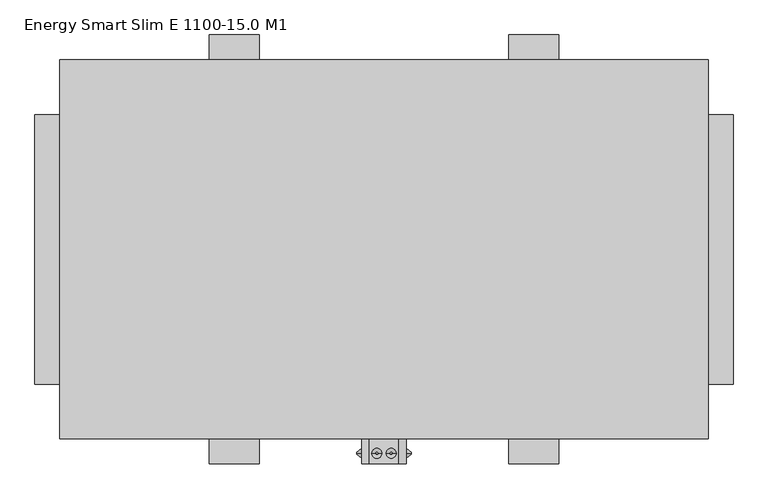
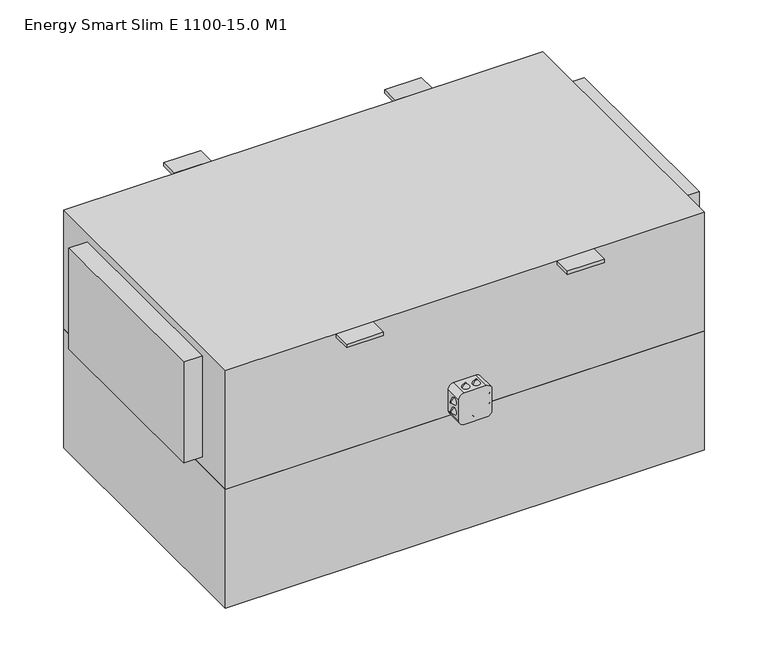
"""IFC4 building model written with IfcOpenShell, lengths in millimetres: proxy geometry, ADSK_КПВУ_ENERGY SMART SLIM E_прямоугольная : Energy Smart Slim E 1100-15.0 M1."""

from ifc_helpers import new_model, si_unit, point, frame, frame_2d, origin, place, context, project, spatial, polyline, circle_curve, trimmed, segment, composite_curve, outline, extrude, faceted_brep, source, transform, mapped, element, save
from ifc_brep_helpers import plane_surface, revolved_surface, advanced_brep


def energy_smart_slim_e_1100_15_0_m1_a4313444(model_context):
    return source(origin(), model_context, "Body", "SolidModel", [
        advanced_brep(
        [(211.0, -408.9311792, -142.7092609), (211.0, -408.9311792, -138.7092609), (221.0, -408.9311792, -150.7092609), (221.0, -408.9311792, -130.7092609)],
        [
            (0, 1, circle_curve(frame((211.0, -408.9311792, -140.7092609), z_axis=(-1.0, 0.0, 0.0), x_axis=(0.0, 0.0, -1.0)), 2.0)),
            (1, 0, circle_curve(frame((211.0, -408.9311792, -140.7092609), z_axis=(-1.0, 0.0, 0.0), x_axis=(0.0, 0.0, 1.0)), 2.0)),
            (2, 3, circle_curve(frame((221.0, -408.9311792, -140.7092609), z_axis=(1.0, 0.0, 0.0), x_axis=(0.0, 0.0, 1.0)), 10.0)),
            (3, 2, circle_curve(frame((221.0, -408.9311792, -140.7092609), z_axis=(1.0, 0.0, 0.0), x_axis=(0.0, 0.0, -1.0)), 10.0)),
            (2, 0),
            (1, 3),
        ],
        [
            plane_surface(frame((211.0, -408.9311792, -140.7092609), z_axis=(-1.0, 0.0, 0.0), x_axis=(0.0, -1.0, 0.0))),
            plane_surface(frame((221.0, -408.9311792, -140.7092609), z_axis=(1.0, 0.0, 0.0), x_axis=(0.0, -1.0, 0.0))),
            revolved_surface(polyline([(211.0, -408.9311792, -138.7092609), (221.0, -408.9311792, -130.7092609)]), (208.5, -408.9311792, -140.7092609), (1.0, 0.0, 0.0)),
            revolved_surface(polyline([(211.0, -408.9311792, -142.7092609), (221.0, -408.9311792, -150.7092609)]), (208.5, -408.9311792, -140.7092609), (1.0, 0.0, 0.0)),
        ],
        [
            (0, [[1, 2]]),
            (1, [[3, 4]]),
            (2, [[-3, 5, -2, 6]]),
            (3, [[-4, -6, -1, -5]]),
        ],
    ),
        advanced_brep(
        [(211.0, -408.9311792, -110.0531164), (211.0, -408.9311792, -114.0531164), (221.0, -408.9311792, -102.0531164), (221.0, -408.9311792, -122.0531164)],
        [
            (0, 1, circle_curve(frame((211.0, -408.9311792, -112.0531164), z_axis=(-1.0, 0.0, 0.0), x_axis=(0.0, 0.0, 1.0)), 2.0)),
            (1, 0, circle_curve(frame((211.0, -408.9311792, -112.0531164), z_axis=(-1.0, 0.0, 0.0), x_axis=(0.0, 0.0, -1.0)), 2.0)),
            (2, 3, circle_curve(frame((221.0, -408.9311792, -112.0531164), z_axis=(1.0, 0.0, 0.0), x_axis=(0.0, 0.0, -1.0)), 10.0)),
            (3, 2, circle_curve(frame((221.0, -408.9311792, -112.0531164), z_axis=(1.0, 0.0, 0.0), x_axis=(0.0, 0.0, 1.0)), 10.0)),
            (3, 1),
            (0, 2),
        ],
        [
            plane_surface(frame((211.0, -408.9311792, -112.0531164), z_axis=(-1.0, 0.0, 0.0), x_axis=(0.0, 1.0, 0.0))),
            plane_surface(frame((221.0, -408.9311792, -112.0531164), z_axis=(1.0, 0.0, 0.0), x_axis=(0.0, 1.0, 0.0))),
            revolved_surface(polyline([(211.0, -408.9311792, -110.0531164), (221.0, -408.9311792, -102.0531164)]), (208.5, -408.9311792, -112.0531164), (1.0, 0.0, 0.0)),
            revolved_surface(polyline([(211.0, -408.9311792, -114.0531164), (221.0, -408.9311792, -122.0531164)]), (208.5, -408.9311792, -112.0531164), (1.0, 0.0, 0.0)),
        ],
        [
            (0, [[1, 2]]),
            (1, [[3, 4]]),
            (2, [[-4, 5, -1, 6]]),
            (3, [[-3, -6, -2, -5]]),
        ],
    ),
        advanced_brep(
        [(321.0, -408.9311792, -142.7092609), (321.0, -408.9311792, -138.7092609), (311.0, -408.9311792, -150.7092609), (311.0, -408.9311792, -130.7092609)],
        [
            (0, 1, circle_curve(frame((321.0, -408.9311792, -140.7092609), z_axis=(1.0, 0.0, 0.0), x_axis=(0.0, 0.0, -1.0)), 2.0)),
            (1, 0, circle_curve(frame((321.0, -408.9311792, -140.7092609), z_axis=(1.0, 0.0, 0.0), x_axis=(0.0, 0.0, 1.0)), 2.0)),
            (2, 3, circle_curve(frame((311.0, -408.9311792, -140.7092609), z_axis=(-1.0, 0.0, 0.0), x_axis=(0.0, 0.0, 1.0)), 10.0)),
            (3, 2, circle_curve(frame((311.0, -408.9311792, -140.7092609), z_axis=(-1.0, 0.0, 0.0), x_axis=(0.0, 0.0, -1.0)), 10.0)),
            (3, 1),
            (0, 2),
        ],
        [
            plane_surface(frame((321.0, -408.9311792, -140.7092609), z_axis=(1.0, 0.0, 0.0), x_axis=(0.0, 1.0, 0.0))),
            plane_surface(frame((311.0, -408.9311792, -140.7092609), z_axis=(-1.0, 0.0, 0.0), x_axis=(0.0, 1.0, 0.0))),
            revolved_surface(polyline([(321.0, -408.9311792, -142.7092609), (311.0, -408.9311792, -150.7092609)]), (323.5, -408.9311792, -140.7092609), (-1.0, 0.0, 0.0)),
            revolved_surface(polyline([(321.0, -408.9311792, -138.7092609), (311.0, -408.9311792, -130.7092609)]), (323.5, -408.9311792, -140.7092609), (-1.0, 0.0, 0.0)),
        ],
        [
            (0, [[1, 2]]),
            (1, [[3, 4]]),
            (2, [[-4, 5, -1, 6]]),
            (3, [[-3, -6, -2, -5]]),
        ],
    ),
        advanced_brep(
        [(321.0, -408.9311792, -110.0531164), (321.0, -408.9311792, -114.0531164), (311.0, -408.9311792, -102.0531164), (311.0, -408.9311792, -122.0531164)],
        [
            (0, 1, circle_curve(frame((321.0, -408.9311792, -112.0531164), z_axis=(1.0, 0.0, 0.0), x_axis=(0.0, 0.0, 1.0)), 2.0)),
            (1, 0, circle_curve(frame((321.0, -408.9311792, -112.0531164), z_axis=(1.0, 0.0, 0.0), x_axis=(0.0, 0.0, -1.0)), 2.0)),
            (2, 3, circle_curve(frame((311.0, -408.9311792, -112.0531164), z_axis=(-1.0, 0.0, 0.0), x_axis=(0.0, 0.0, -1.0)), 10.0)),
            (3, 2, circle_curve(frame((311.0, -408.9311792, -112.0531164), z_axis=(-1.0, 0.0, 0.0), x_axis=(0.0, 0.0, 1.0)), 10.0)),
            (2, 0),
            (1, 3),
        ],
        [
            plane_surface(frame((321.0, -408.9311792, -112.0531164), z_axis=(1.0, 0.0, 0.0), x_axis=(0.0, -1.0, 0.0))),
            plane_surface(frame((311.0, -408.9311792, -112.0531164), z_axis=(-1.0, 0.0, 0.0), x_axis=(0.0, -1.0, 0.0))),
            revolved_surface(polyline([(321.0, -408.9311792, -114.0531164), (311.0, -408.9311792, -122.0531164)]), (323.5, -408.9311792, -112.0531164), (-1.0, 0.0, 0.0)),
            revolved_surface(polyline([(321.0, -408.9311792, -110.0531164), (311.0, -408.9311792, -102.0531164)]), (323.5, -408.9311792, -112.0531164), (-1.0, 0.0, 0.0)),
        ],
        [
            (0, [[1, 2]]),
            (1, [[3, 4]]),
            (2, [[-3, 5, -2, 6]]),
            (3, [[-4, -6, -1, -5]]),
        ],
    ),
        advanced_brep(
        [(249.6719278, -408.9311792, -181.0), (253.6719278, -408.9311792, -181.0), (241.6719278, -408.9311792, -171.0), (261.6719278, -408.9311792, -171.0)],
        [
            (0, 1, circle_curve(frame((251.6719278, -408.9311792, -181.0), z_axis=(0.0, 0.0, -1.0), x_axis=(-1.0, 0.0, 0.0)), 2.0)),
            (1, 0, circle_curve(frame((251.6719278, -408.9311792, -181.0), z_axis=(0.0, 0.0, -1.0), x_axis=(1.0, 0.0, 0.0)), 2.0)),
            (2, 3, circle_curve(frame((251.6719278, -408.9311792, -171.0), z_axis=(0.0, 0.0, 1.0), x_axis=(1.0, 0.0, 0.0)), 10.0)),
            (3, 2, circle_curve(frame((251.6719278, -408.9311792, -171.0), z_axis=(0.0, 0.0, 1.0), x_axis=(-1.0, 0.0, 0.0)), 10.0)),
            (3, 1),
            (0, 2),
        ],
        [
            plane_surface(frame((251.6719278, -408.9311792, -181.0), z_axis=(0.0, 0.0, -1.0), x_axis=(0.0, 1.0, 0.0))),
            plane_surface(frame((251.6719278, -408.9311792, -171.0), z_axis=(0.0, 0.0, 1.0), x_axis=(0.0, 1.0, 0.0))),
            revolved_surface(polyline([(249.6719278, -408.9311792, -181.0), (241.6719278, -408.9311792, -171.0)]), (251.6719278, -408.9311792, -183.5), (0.0, 0.0, 1.0)),
            revolved_surface(polyline([(253.6719278, -408.9311792, -181.0), (261.6719278, -408.9311792, -171.0)]), (251.6719278, -408.9311792, -183.5), (0.0, 0.0, 1.0)),
        ],
        [
            (0, [[1, 2]]),
            (1, [[3, 4]]),
            (2, [[-4, 5, -1, 6]]),
            (3, [[-3, -6, -2, -5]]),
        ],
    ),
        advanced_brep(
        [(282.3280722, -408.9311792, -181.0), (278.3280722, -408.9311792, -181.0), (290.3280722, -408.9311792, -171.0), (270.3280722, -408.9311792, -171.0)],
        [
            (0, 1, circle_curve(frame((280.3280722, -408.9311792, -181.0), z_axis=(0.0, 0.0, -1.0), x_axis=(1.0, 0.0, 0.0)), 2.0)),
            (1, 0, circle_curve(frame((280.3280722, -408.9311792, -181.0), z_axis=(0.0, 0.0, -1.0), x_axis=(-1.0, 0.0, 0.0)), 2.0)),
            (2, 3, circle_curve(frame((280.3280722, -408.9311792, -171.0), z_axis=(0.0, 0.0, 1.0), x_axis=(-1.0, 0.0, 0.0)), 10.0)),
            (3, 2, circle_curve(frame((280.3280722, -408.9311792, -171.0), z_axis=(0.0, 0.0, 1.0), x_axis=(1.0, 0.0, 0.0)), 10.0)),
            (2, 0),
            (1, 3),
        ],
        [
            plane_surface(frame((280.3280722, -408.9311792, -181.0), z_axis=(0.0, 0.0, -1.0), x_axis=(0.0, -1.0, 0.0))),
            plane_surface(frame((280.3280722, -408.9311792, -171.0), z_axis=(0.0, 0.0, 1.0), x_axis=(0.0, -1.0, 0.0))),
            revolved_surface(polyline([(278.3280722, -408.9311792, -181.0), (270.3280722, -408.9311792, -171.0)]), (280.3280722, -408.9311792, -183.5), (0.0, 0.0, 1.0)),
            revolved_surface(polyline([(282.3280722, -408.9311792, -181.0), (290.3280722, -408.9311792, -171.0)]), (280.3280722, -408.9311792, -183.5), (0.0, 0.0, 1.0)),
        ],
        [
            (0, [[1, 2]]),
            (1, [[3, 4]]),
            (2, [[-3, 5, -2, 6]]),
            (3, [[-4, -6, -1, -5]]),
        ],
    ),
        advanced_brep(
        [(249.6719278, -408.9311792, -71.0), (253.6719278, -408.9311792, -71.0), (241.6719278, -408.9311792, -81.0), (261.6719278, -408.9311792, -81.0)],
        [
            (0, 1, circle_curve(frame((251.6719278, -408.9311792, -71.0), z_axis=(0.0, 0.0, 1.0), x_axis=(-1.0, 0.0, 0.0)), 2.0)),
            (1, 0, circle_curve(frame((251.6719278, -408.9311792, -71.0), z_axis=(0.0, 0.0, 1.0), x_axis=(1.0, 0.0, 0.0)), 2.0)),
            (2, 3, circle_curve(frame((251.6719278, -408.9311792, -81.0), z_axis=(0.0, 0.0, -1.0), x_axis=(1.0, 0.0, 0.0)), 10.0)),
            (3, 2, circle_curve(frame((251.6719278, -408.9311792, -81.0), z_axis=(0.0, 0.0, -1.0), x_axis=(-1.0, 0.0, 0.0)), 10.0)),
            (2, 0),
            (1, 3),
        ],
        [
            plane_surface(frame((251.6719278, -408.9311792, -71.0), z_axis=(0.0, 0.0, 1.0), x_axis=(0.0, -1.0, 0.0))),
            plane_surface(frame((251.6719278, -408.9311792, -81.0), z_axis=(0.0, 0.0, -1.0), x_axis=(0.0, -1.0, 0.0))),
            revolved_surface(polyline([(253.6719278, -408.9311792, -71.0), (261.6719278, -408.9311792, -81.0)]), (251.6719278, -408.9311792, -68.5), (0.0, 0.0, -1.0)),
            revolved_surface(polyline([(249.6719278, -408.9311792, -71.0), (241.6719278, -408.9311792, -81.0)]), (251.6719278, -408.9311792, -68.5), (0.0, 0.0, -1.0)),
        ],
        [
            (0, [[1, 2]]),
            (1, [[3, 4]]),
            (2, [[-3, 5, -2, 6]]),
            (3, [[-4, -6, -1, -5]]),
        ],
    ),
        advanced_brep(
        [(282.3280722, -408.9311792, -71.0), (278.3280722, -408.9311792, -71.0), (290.3280722, -408.9311792, -81.0), (270.3280722, -408.9311792, -81.0)],
        [
            (0, 1, circle_curve(frame((280.3280722, -408.9311792, -71.0), z_axis=(0.0, 0.0, 1.0), x_axis=(1.0, 0.0, 0.0)), 2.0)),
            (1, 0, circle_curve(frame((280.3280722, -408.9311792, -71.0), z_axis=(0.0, 0.0, 1.0), x_axis=(-1.0, 0.0, 0.0)), 2.0)),
            (2, 3, circle_curve(frame((280.3280722, -408.9311792, -81.0), z_axis=(0.0, 0.0, -1.0), x_axis=(-1.0, 0.0, 0.0)), 10.0)),
            (3, 2, circle_curve(frame((280.3280722, -408.9311792, -81.0), z_axis=(0.0, 0.0, -1.0), x_axis=(1.0, 0.0, 0.0)), 10.0)),
            (3, 1),
            (0, 2),
        ],
        [
            plane_surface(frame((280.3280722, -408.9311792, -71.0), z_axis=(0.0, 0.0, 1.0), x_axis=(0.0, 1.0, 0.0))),
            plane_surface(frame((280.3280722, -408.9311792, -81.0), z_axis=(0.0, 0.0, -1.0), x_axis=(0.0, 1.0, 0.0))),
            revolved_surface(polyline([(282.3280722, -408.9311792, -71.0), (290.3280722, -408.9311792, -81.0)]), (280.3280722, -408.9311792, -68.5), (0.0, 0.0, -1.0)),
            revolved_surface(polyline([(278.3280722, -408.9311792, -71.0), (270.3280722, -408.9311792, -81.0)]), (280.3280722, -408.9311792, -68.5), (0.0, 0.0, -1.0)),
        ],
        [
            (0, [[1, 2]]),
            (1, [[3, 4]]),
            (2, [[-4, 5, -1, 6]]),
            (3, [[-3, -6, -2, -5]]),
        ],
    ),
        extrude(outline(composite_curve([segment(polyline([(-171.0, 236.0), (-171.0, 296.0)]), True, "CONTINUOUS"), segment(trimmed(circle_curve(frame_2d((-156.0, 296.0)), 15.0), [point((-171.0, 296.0))], [point((-156.0, 311.0))], False, "CARTESIAN"), True, "CONTINUOUS"), segment(polyline([(-156.0, 311.0), (-96.0, 311.0)]), True, "CONTINUOUS"), segment(trimmed(circle_curve(frame_2d((-96.0, 296.0)), 15.0), [point((-96.0, 311.0))], [point((-81.0, 296.0))], False, "CARTESIAN"), True, "CONTINUOUS"), segment(polyline([(-81.0, 296.0), (-81.0, 236.0)]), True, "CONTINUOUS"), segment(trimmed(circle_curve(frame_2d((-96.0, 236.0)), 15.0), [point((-81.0, 236.0))], [point((-96.0, 221.0))], False, "CARTESIAN"), True, "CONTINUOUS"), segment(polyline([(-96.0, 221.0), (-156.0, 221.0)]), True, "CONTINUOUS"), segment(trimmed(circle_curve(frame_2d((-156.0, 236.0)), 15.0), [point((-156.0, 221.0))], [point((-171.0, 236.0))], False, "CARTESIAN"), True, "CONTINUOUS")], self_intersect=False)), frame((0.0, -430.0, 0.0), z_axis=(0.0, 1.0, 0.0), x_axis=(0.0, 0.0, 1.0)), (0.0, 0.0, 1.0), 50.0),
        extrude(outline(polyline([(916.0, -270.0), (916.0, 270.0), (966.0, 270.0), (966.0, -270.0), (916.0, -270.0)])), frame((0.0, 0.0, -145.0), z_axis=(0.0, 0.0, 1.0), x_axis=(1.0, 0.0, 0.0)), (0.0, 0.0, 1.0), 290.0),
        faceted_brep([(916.0, -380.0, 171.0), (916.0, -380.0, -171.0), (916.0, 380.0, -171.0), (916.0, 380.0, 171.0), (-384.0, -380.0, 171.0), (-384.0, 380.0, 171.0), (-384.0, 380.0, -171.0), (-384.0, -380.0, -171.0), (-384.0, -270.0, 145.0), (-384.0, -270.0, -145.0), (-384.0, 270.0, -145.0), (-384.0, 270.0, 145.0), (-434.0, -270.0, 145.0), (-434.0, 270.0, 145.0), (-434.0, 270.0, -145.0), (-434.0, -270.0, -145.0)], [[[0, 1, 2, 3]], [[4, 5, 6, 7], [8, 9, 10, 11]], [[12, 13, 14, 15]], [[1, 0, 4, 7]], [[2, 1, 7, 6]], [[3, 2, 6, 5]], [[0, 3, 5, 4]], [[12, 15, 9, 8]], [[15, 14, 10, 9]], [[14, 13, 11, 10]], [[13, 12, 8, 11]]]),
        extrude(outline(polyline([(-84.0, 430.0), (16.0, 430.0), (16.0, 380.0), (-84.0, 380.0), (-84.0, 430.0)])), frame((0.0, 0.0, 161.0), z_axis=(0.0, 0.0, 1.0), x_axis=(1.0, 0.0, 0.0)), (0.0, 0.0, 1.0), 10.0),
        extrude(outline(polyline([(516.0, 430.0), (616.0, 430.0), (616.0, 380.0), (516.0, 380.0), (516.0, 430.0)])), frame((0.0, 0.0, 161.0), z_axis=(0.0, 0.0, 1.0), x_axis=(1.0, 0.0, 0.0)), (0.0, 0.0, 1.0), 10.0),
        extrude(outline(polyline([(-84.0, -430.0), (-84.0, -380.0), (16.0, -380.0), (16.0, -430.0), (-84.0, -430.0)])), frame((0.0, 0.0, 161.0), z_axis=(0.0, 0.0, 1.0), x_axis=(1.0, 0.0, 0.0)), (0.0, 0.0, 1.0), 10.0),
        extrude(outline(polyline([(516.0, -430.0), (516.0, -380.0), (616.0, -380.0), (616.0, -430.0), (516.0, -430.0)])), frame((0.0, 0.0, 161.0), z_axis=(0.0, 0.0, 1.0), x_axis=(1.0, 0.0, 0.0)), (0.0, 0.0, 1.0), 10.0),
        extrude(outline(polyline([(916.0, 380.0), (916.0, -380.0), (-384.0, -380.0), (-384.0, 380.0), (916.0, 380.0)])), frame((0.0, 0.0, -513.0), z_axis=(0.0, 0.0, 1.0), x_axis=(1.0, 0.0, 0.0)), (0.0, 0.0, 1.0), 342.0),
    ])


if __name__ == "__main__":
    model = new_model("IFC4")
    model_context = context("Model", 3, world=origin())
    ifc_project = project(units=[si_unit("LENGTHUNIT", "METRE", prefix="MILLI")], contexts=[model_context])
    site = spatial("IfcSite", under=ifc_project)
    building = spatial("IfcBuilding", under=site)
    placement = place(None, origin())
    energy_smart_slim_e_1100_15_0_m1_shape = energy_smart_slim_e_1100_15_0_m1_a4313444(model_context)
    element("IfcBuildingElementProxy", 1, Name="ADSK_КПВУ_ENERGY SMART SLIM E_прямоугольная : Energy Smart Slim E 1100-15.0 M1", ObjectType="ADSK_КПВУ_ENERGY SMART SLIM E_прямоугольная : Energy Smart Slim E 1100-15.0 M1", at=placement, inside=building, context=model_context, shape_type="MappedRepresentation", body=[
        mapped(energy_smart_slim_e_1100_15_0_m1_shape, transform((0.0, 0.0, 0.0), x_axis=(1.0, 0.0, 0.0), y_axis=(0.0, 1.0, 0.0), z_axis=(0.0, 0.0, 1.0))),
    ])
    save(model, "model.ifc")
